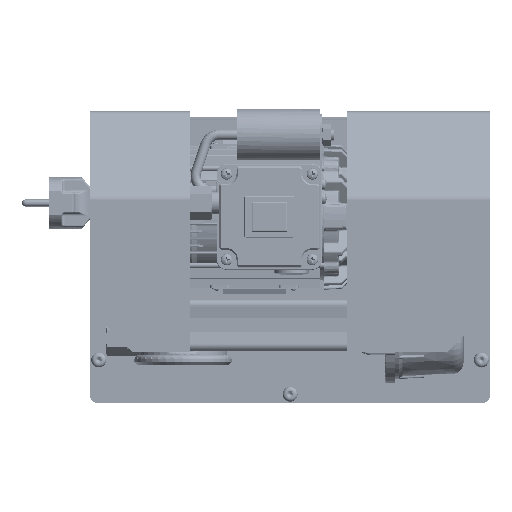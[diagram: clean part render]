
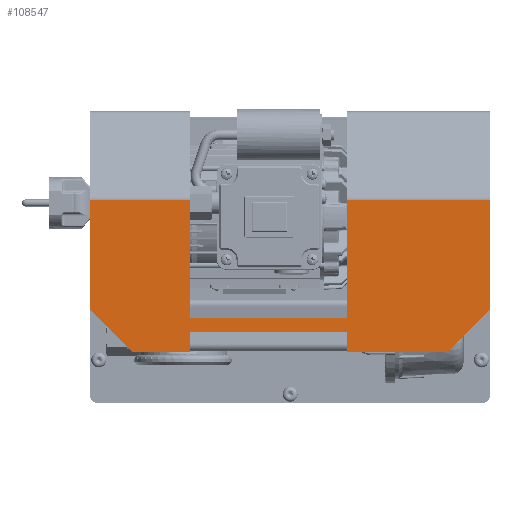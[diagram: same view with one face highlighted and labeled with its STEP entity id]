
A CAD part, top view. The second image highlights one B-rep face of the part: STEP entity #108547.
In plain terms, the highlighted planar face has unit normal (0, 0, 1).
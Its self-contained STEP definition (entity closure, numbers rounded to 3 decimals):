
#8965=LINE('',#200658,#15802);
#8966=LINE('',#200664,#15803);
#8971=LINE('',#200676,#15808);
#8972=LINE('',#200682,#15809);
#8990=LINE('',#200743,#15827);
#8991=LINE('',#200749,#15828);
#8996=LINE('',#200761,#15833);
#8997=LINE('',#200767,#15834);
#9027=LINE('',#200886,#15864);
#9028=LINE('',#200888,#15865);
#9029=LINE('',#200889,#15866);
#9030=LINE('',#200890,#15867);
#9031=LINE('',#200891,#15868);
#9032=LINE('',#200892,#15869);
#9033=LINE('',#200894,#15870);
#9034=LINE('',#200896,#15871);
#9035=LINE('',#200898,#15872);
#9036=LINE('',#200899,#15873);
#9037=LINE('',#200900,#15874);
#9038=LINE('',#200901,#15875);
#9039=LINE('',#200902,#15876);
#9040=LINE('',#200903,#15877);
#9041=LINE('',#200906,#15878);
#9042=LINE('',#200909,#15879);
#9043=LINE('',#200911,#15880);
#9044=LINE('',#200913,#15881);
#9045=LINE('',#200914,#15882);
#15802=VECTOR('',#135488,1.28);
#15803=VECTOR('',#135493,1.044);
#15808=VECTOR('',#135502,1.044);
#15809=VECTOR('',#135507,1.28);
#15827=VECTOR('',#135549,69.782);
#15828=VECTOR('',#135554,1.065);
#15833=VECTOR('',#135563,1.065);
#15834=VECTOR('',#135568,69.782);
#15864=VECTOR('',#135666,42.426);
#15865=VECTOR('',#135667,76.515);
#15866=VECTOR('',#135668,100.);
#15867=VECTOR('',#135669,1.667);
#15868=VECTOR('',#135670,110.);
#15869=VECTOR('',#135671,1.667);
#15870=VECTOR('',#135672,70.);
#15871=VECTOR('',#135673,76.515);
#15872=VECTOR('',#135674,42.426);
#15873=VECTOR('',#135675,40.);
#15874=VECTOR('',#135676,1.676);
#15875=VECTOR('',#135677,110.);
#15876=VECTOR('',#135678,1.676);
#15877=VECTOR('',#135679,70.);
#15878=VECTOR('',#135680,110.);
#15879=VECTOR('',#135681,110.);
#15880=VECTOR('',#135682,0.221);
#15881=VECTOR('',#135683,110.);
#15882=VECTOR('',#135684,0.221);
#26601=PLANE('',#117296);
#28744=FACE_BOUND('',#39361,.T.);
#28745=FACE_BOUND('',#39362,.T.);
#32300=FACE_OUTER_BOUND('',#39360,.T.);
#39360=EDGE_LOOP('',(#87655,#87656,#87657,#87658,#87659,#87660,#87661,#87662,
#87663,#87664,#87665,#87666,#87667,#87668,#87669,#87670,#87671,#87672,#87673,
#87674,#87675,#87676));
#39361=EDGE_LOOP('',(#87677,#87678));
#39362=EDGE_LOOP('',(#87679,#87680,#87681,#87682));
#52550=VERTEX_POINT('',#200652);
#52552=VERTEX_POINT('',#200656);
#52553=VERTEX_POINT('',#200660);
#52555=VERTEX_POINT('',#200663);
#52557=VERTEX_POINT('',#200669);
#52560=VERTEX_POINT('',#200674);
#52562=VERTEX_POINT('',#200679);
#52563=VERTEX_POINT('',#200681);
#52578=VERTEX_POINT('',#200720);
#52588=VERTEX_POINT('',#200741);
#52589=VERTEX_POINT('',#200745);
#52591=VERTEX_POINT('',#200748);
#52593=VERTEX_POINT('',#200754);
#52596=VERTEX_POINT('',#200759);
#52598=VERTEX_POINT('',#200764);
#52599=VERTEX_POINT('',#200766);
#52653=VERTEX_POINT('',#200884);
#52654=VERTEX_POINT('',#200885);
#52655=VERTEX_POINT('',#200887);
#52656=VERTEX_POINT('',#200893);
#52657=VERTEX_POINT('',#200895);
#52658=VERTEX_POINT('',#200897);
#52659=VERTEX_POINT('',#200904);
#52660=VERTEX_POINT('',#200905);
#52661=VERTEX_POINT('',#200907);
#52662=VERTEX_POINT('',#200908);
#52663=VERTEX_POINT('',#200910);
#52664=VERTEX_POINT('',#200912);
#65042=EDGE_CURVE('',#52550,#52552,#8965,.T.);
#65044=EDGE_CURVE('',#52555,#52553,#8966,.T.);
#65050=EDGE_CURVE('',#52557,#52560,#8971,.T.);
#65052=EDGE_CURVE('',#52563,#52562,#8972,.T.);
#65080=EDGE_CURVE('',#52578,#52588,#8990,.T.);
#65082=EDGE_CURVE('',#52591,#52589,#8991,.T.);
#65088=EDGE_CURVE('',#52593,#52596,#8996,.T.);
#65090=EDGE_CURVE('',#52599,#52598,#8997,.T.);
#65147=EDGE_CURVE('',#52653,#52654,#9027,.T.);
#65148=EDGE_CURVE('',#52655,#52653,#9028,.T.);
#65149=EDGE_CURVE('',#52599,#52655,#9029,.T.);
#65150=EDGE_CURVE('',#52593,#52598,#9030,.T.);
#65151=EDGE_CURVE('',#52596,#52591,#9031,.T.);
#65152=EDGE_CURVE('',#52578,#52589,#9032,.T.);
#65153=EDGE_CURVE('',#52656,#52588,#9033,.T.);
#65154=EDGE_CURVE('',#52656,#52657,#9034,.T.);
#65155=EDGE_CURVE('',#52658,#52657,#9035,.T.);
#65156=EDGE_CURVE('',#52563,#52658,#9036,.T.);
#65157=EDGE_CURVE('',#52557,#52562,#9037,.T.);
#65158=EDGE_CURVE('',#52560,#52555,#9038,.T.);
#65159=EDGE_CURVE('',#52550,#52553,#9039,.T.);
#65160=EDGE_CURVE('',#52654,#52552,#9040,.T.);
#65161=EDGE_CURVE('',#52659,#52660,#9041,.T.);
#65162=EDGE_CURVE('',#52661,#52662,#9042,.T.);
#65163=EDGE_CURVE('',#52663,#52661,#9043,.T.);
#65164=EDGE_CURVE('',#52664,#52663,#9044,.T.);
#65165=EDGE_CURVE('',#52662,#52664,#9045,.T.);
#87655=ORIENTED_EDGE('',*,*,#65147,.F.);
#87656=ORIENTED_EDGE('',*,*,#65148,.F.);
#87657=ORIENTED_EDGE('',*,*,#65149,.F.);
#87658=ORIENTED_EDGE('',*,*,#65090,.T.);
#87659=ORIENTED_EDGE('',*,*,#65150,.F.);
#87660=ORIENTED_EDGE('',*,*,#65088,.T.);
#87661=ORIENTED_EDGE('',*,*,#65151,.T.);
#87662=ORIENTED_EDGE('',*,*,#65082,.T.);
#87663=ORIENTED_EDGE('',*,*,#65152,.F.);
#87664=ORIENTED_EDGE('',*,*,#65080,.T.);
#87665=ORIENTED_EDGE('',*,*,#65153,.F.);
#87666=ORIENTED_EDGE('',*,*,#65154,.T.);
#87667=ORIENTED_EDGE('',*,*,#65155,.F.);
#87668=ORIENTED_EDGE('',*,*,#65156,.F.);
#87669=ORIENTED_EDGE('',*,*,#65052,.T.);
#87670=ORIENTED_EDGE('',*,*,#65157,.F.);
#87671=ORIENTED_EDGE('',*,*,#65050,.T.);
#87672=ORIENTED_EDGE('',*,*,#65158,.T.);
#87673=ORIENTED_EDGE('',*,*,#65044,.T.);
#87674=ORIENTED_EDGE('',*,*,#65159,.F.);
#87675=ORIENTED_EDGE('',*,*,#65042,.T.);
#87676=ORIENTED_EDGE('',*,*,#65160,.F.);
#87677=ORIENTED_EDGE('',*,*,#65161,.F.);
#87678=ORIENTED_EDGE('',*,*,#65161,.T.);
#87679=ORIENTED_EDGE('',*,*,#65162,.F.);
#87680=ORIENTED_EDGE('',*,*,#65163,.F.);
#87681=ORIENTED_EDGE('',*,*,#65164,.F.);
#87682=ORIENTED_EDGE('',*,*,#65165,.F.);
#108547=ADVANCED_FACE('',(#32300,#28744,#28745),#26601,.T.);
#117296=AXIS2_PLACEMENT_3D('',#200883,#135664,#135665);
#135488=DIRECTION('',(0.,-1.,0.));
#135493=DIRECTION('',(0.,-1.,0.));
#135502=DIRECTION('',(0.,1.,0.));
#135507=DIRECTION('',(0.,1.,0.));
#135549=DIRECTION('',(0.,1.,0.));
#135554=DIRECTION('',(0.,1.,0.));
#135563=DIRECTION('',(0.,-1.,0.));
#135568=DIRECTION('',(0.,-1.,0.));
#135664=DIRECTION('center_axis',(0.,0.,1.));
#135665=DIRECTION('ref_axis',(0.,1.,0.));
#135666=DIRECTION('',(-0.707,-0.707,0.));
#135667=DIRECTION('',(0.,-1.,0.));
#135668=DIRECTION('',(1.,0.,0.));
#135669=DIRECTION('',(0.,1.,0.));
#135670=DIRECTION('',(-1.,0.,0.));
#135671=DIRECTION('',(0.,-1.,0.));
#135672=DIRECTION('',(1.,0.,0.));
#135673=DIRECTION('',(0.,-1.,0.));
#135674=DIRECTION('',(-0.707,0.707,0.));
#135675=DIRECTION('',(-1.,0.,0.));
#135676=DIRECTION('',(0.,-1.,0.));
#135677=DIRECTION('',(1.,0.,0.));
#135678=DIRECTION('',(0.,1.,0.));
#135679=DIRECTION('',(-1.,0.,0.));
#135680=DIRECTION('',(-1.,0.,0.));
#135681=DIRECTION('',(1.,0.,0.));
#135682=DIRECTION('',(0.,-1.,0.));
#135683=DIRECTION('',(-1.,0.,0.));
#135684=DIRECTION('',(0.,1.,0.));
#200652=CARTESIAN_POINT('',(40.,-63.72,194.5));
#200656=CARTESIAN_POINT('',(40.,-65.,194.5));
#200658=CARTESIAN_POINT('',(40.,-63.,194.5));
#200660=CARTESIAN_POINT('',(40.,-62.044,194.5));
#200663=CARTESIAN_POINT('',(40.,-61.,194.5));
#200664=CARTESIAN_POINT('',(40.,-63.,194.5));
#200669=CARTESIAN_POINT('',(-70.,-62.044,194.5));
#200674=CARTESIAN_POINT('',(-70.,-61.,194.5));
#200676=CARTESIAN_POINT('',(-70.,-65.,194.5));
#200679=CARTESIAN_POINT('',(-70.,-63.72,194.5));
#200681=CARTESIAN_POINT('',(-70.,-65.,194.5));
#200682=CARTESIAN_POINT('',(-70.,-65.,194.5));
#200720=CARTESIAN_POINT('',(-70.,-28.267,194.5));
#200741=CARTESIAN_POINT('',(-70.,41.515,194.5));
#200743=CARTESIAN_POINT('',(-70.,-48.,194.5));
#200745=CARTESIAN_POINT('',(-70.,-29.935,194.5));
#200748=CARTESIAN_POINT('',(-70.,-31.,194.5));
#200749=CARTESIAN_POINT('',(-70.,-48.,194.5));
#200754=CARTESIAN_POINT('',(40.,-29.935,194.5));
#200759=CARTESIAN_POINT('',(40.,-31.,194.5));
#200761=CARTESIAN_POINT('',(40.,22.,194.5));
#200764=CARTESIAN_POINT('',(40.,-28.267,194.5));
#200766=CARTESIAN_POINT('',(40.,41.515,194.5));
#200767=CARTESIAN_POINT('',(40.,22.,194.5));
#200883=CARTESIAN_POINT('Origin',(140.,-65.,194.5));
#200884=CARTESIAN_POINT('',(140.,-35.,194.5));
#200885=CARTESIAN_POINT('',(110.,-65.,194.5));
#200886=CARTESIAN_POINT('',(125.,-50.,194.5));
#200887=CARTESIAN_POINT('',(140.,41.515,194.5));
#200888=CARTESIAN_POINT('',(140.,44.,194.5));
#200889=CARTESIAN_POINT('',(140.,41.515,194.5));
#200890=CARTESIAN_POINT('',(40.,-49.754,194.5));
#200891=CARTESIAN_POINT('',(90.,-31.,194.5));
#200892=CARTESIAN_POINT('',(-70.,-49.754,194.5));
#200893=CARTESIAN_POINT('',(-140.,41.515,194.5));
#200894=CARTESIAN_POINT('',(140.,41.515,194.5));
#200895=CARTESIAN_POINT('',(-140.,-35.,194.5));
#200896=CARTESIAN_POINT('',(-140.,-22.75,194.5));
#200897=CARTESIAN_POINT('',(-110.,-65.,194.5));
#200898=CARTESIAN_POINT('',(-55.,-120.,194.5));
#200899=CARTESIAN_POINT('',(140.,-65.,194.5));
#200900=CARTESIAN_POINT('',(-70.,-61.246,194.5));
#200901=CARTESIAN_POINT('',(35.,-61.,194.5));
#200902=CARTESIAN_POINT('',(40.,-61.246,194.5));
#200903=CARTESIAN_POINT('',(140.,-65.,194.5));
#200904=CARTESIAN_POINT('',(40.,-41.,194.5));
#200905=CARTESIAN_POINT('',(-70.,-41.,194.5));
#200906=CARTESIAN_POINT('',(40.,-41.,194.5));
#200907=CARTESIAN_POINT('',(-70.,-51.221,194.5));
#200908=CARTESIAN_POINT('',(40.,-51.221,194.5));
#200909=CARTESIAN_POINT('',(35.,-51.221,194.5));
#200910=CARTESIAN_POINT('',(-70.,-51.,194.5));
#200911=CARTESIAN_POINT('',(-70.,-61.246,194.5));
#200912=CARTESIAN_POINT('',(40.,-51.,194.5));
#200913=CARTESIAN_POINT('',(35.,-51.,194.5));
#200914=CARTESIAN_POINT('',(40.,-61.246,194.5));
